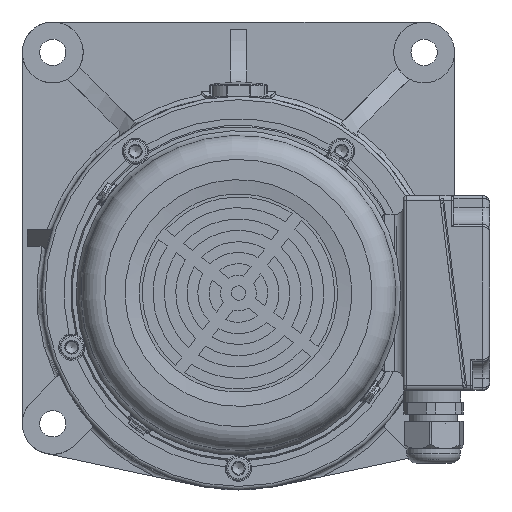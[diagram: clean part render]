
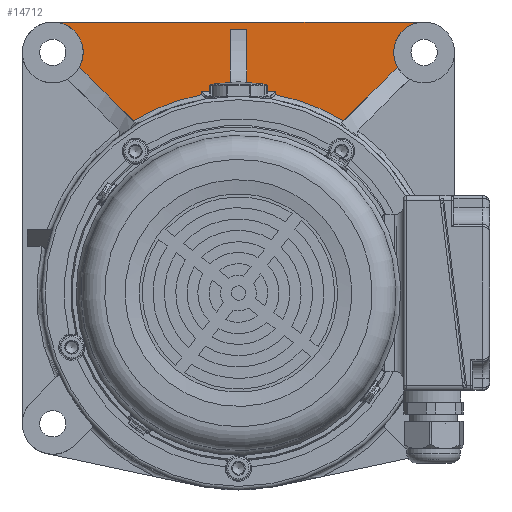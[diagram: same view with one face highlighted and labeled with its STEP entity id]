
A CAD part, left-side view. The second image highlights one B-rep face of the part: STEP entity #14712.
In plain terms, the highlighted planar face has unit normal (-1, 0, 0).
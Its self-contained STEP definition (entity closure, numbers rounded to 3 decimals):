
#2973=PLANE('',#58572);
#5677=LINE('',#85974,#10266);
#5787=LINE('',#87248,#10376);
#5788=LINE('',#87253,#10377);
#5789=LINE('',#87255,#10378);
#5790=LINE('',#87258,#10379);
#5791=LINE('',#87260,#10380);
#5792=LINE('',#87264,#10381);
#5793=LINE('',#87266,#10382);
#5794=LINE('',#87268,#10383);
#5795=LINE('',#87270,#10384);
#5796=LINE('',#87272,#10385);
#5797=LINE('',#87274,#10386);
#10266=VECTOR('',#66936,1.);
#10376=VECTOR('',#67654,1.);
#10377=VECTOR('',#67657,1.);
#10378=VECTOR('',#67658,1.);
#10379=VECTOR('',#67661,1.);
#10380=VECTOR('',#67662,1.);
#10381=VECTOR('',#67665,1.);
#10382=VECTOR('',#67666,1.);
#10383=VECTOR('',#67667,1.);
#10384=VECTOR('',#67668,1.);
#10385=VECTOR('',#67669,1.);
#10386=VECTOR('',#67670,1.);
#14712=ADVANCED_FACE('',(#18039),#2973,.F.);
#18039=FACE_OUTER_BOUND('',#21161,.T.);
#21161=EDGE_LOOP('',(#31565,#31566,#31567,#31568,#31569,#31570,#31571,#31572,
#31573,#31574,#31575,#31576,#31577,#31578,#31579,#31580));
#31565=ORIENTED_EDGE('',*,*,#49570,.T.);
#31566=ORIENTED_EDGE('',*,*,#49571,.T.);
#31567=ORIENTED_EDGE('',*,*,#49572,.T.);
#31568=ORIENTED_EDGE('',*,*,#49573,.T.);
#31569=ORIENTED_EDGE('',*,*,#49574,.T.);
#31570=ORIENTED_EDGE('',*,*,#49205,.T.);
#31571=ORIENTED_EDGE('',*,*,#49568,.T.);
#31572=ORIENTED_EDGE('',*,*,#49575,.T.);
#31573=ORIENTED_EDGE('',*,*,#49576,.T.);
#31574=ORIENTED_EDGE('',*,*,#49577,.T.);
#31575=ORIENTED_EDGE('',*,*,#49578,.T.);
#31576=ORIENTED_EDGE('',*,*,#49579,.T.);
#31577=ORIENTED_EDGE('',*,*,#49580,.T.);
#31578=ORIENTED_EDGE('',*,*,#49581,.T.);
#31579=ORIENTED_EDGE('',*,*,#49582,.T.);
#31580=ORIENTED_EDGE('',*,*,#49583,.T.);
#42873=VERTEX_POINT('',#85973);
#42874=VERTEX_POINT('',#85975);
#43128=VERTEX_POINT('',#87243);
#43130=VERTEX_POINT('',#87249);
#43131=VERTEX_POINT('',#87250);
#43132=VERTEX_POINT('',#87252);
#43133=VERTEX_POINT('',#87254);
#43134=VERTEX_POINT('',#87256);
#43135=VERTEX_POINT('',#87259);
#43136=VERTEX_POINT('',#87261);
#43137=VERTEX_POINT('',#87263);
#43138=VERTEX_POINT('',#87265);
#43139=VERTEX_POINT('',#87267);
#43140=VERTEX_POINT('',#87269);
#43141=VERTEX_POINT('',#87271);
#43142=VERTEX_POINT('',#87273);
#49205=EDGE_CURVE('',#42874,#42873,#5677,.T.);
#49568=EDGE_CURVE('',#42873,#43128,#55384,.T.);
#49570=EDGE_CURVE('',#43130,#43131,#5787,.T.);
#49571=EDGE_CURVE('',#43131,#43132,#55386,.T.);
#49572=EDGE_CURVE('',#43132,#43133,#5788,.T.);
#49573=EDGE_CURVE('',#43133,#43134,#5789,.T.);
#49574=EDGE_CURVE('',#43134,#42874,#55387,.T.);
#49575=EDGE_CURVE('',#43128,#43135,#5790,.T.);
#49576=EDGE_CURVE('',#43135,#43136,#5791,.T.);
#49577=EDGE_CURVE('',#43136,#43137,#55388,.T.);
#49578=EDGE_CURVE('',#43137,#43138,#5792,.T.);
#49579=EDGE_CURVE('',#43138,#43139,#5793,.T.);
#49580=EDGE_CURVE('',#43139,#43140,#5794,.T.);
#49581=EDGE_CURVE('',#43140,#43141,#5795,.T.);
#49582=EDGE_CURVE('',#43141,#43142,#5796,.T.);
#49583=EDGE_CURVE('',#43142,#43130,#5797,.T.);
#55384=CIRCLE('',#58566,12.75);
#55386=CIRCLE('',#58569,84.5);
#55387=CIRCLE('',#58570,12.75);
#55388=CIRCLE('',#58571,84.5);
#58566=AXIS2_PLACEMENT_3D('',#87244,#67648,#67649);
#58569=AXIS2_PLACEMENT_3D('',#87251,#67655,#67656);
#58570=AXIS2_PLACEMENT_3D('',#87257,#67659,#67660);
#58571=AXIS2_PLACEMENT_3D('',#87262,#67663,#67664);
#58572=AXIS2_PLACEMENT_3D('',#87275,#67671,#67672);
#66936=DIRECTION('',(0.,1.,0.));
#67648=DIRECTION('',(1.,0.,0.));
#67649=DIRECTION('',(0.,-1.,0.));
#67654=DIRECTION('',(0.,0.,-1.));
#67655=DIRECTION('',(1.,0.,0.));
#67656=DIRECTION('',(0.,0.,-1.));
#67657=DIRECTION('',(0.,-0.707,0.707));
#67658=DIRECTION('',(0.,-0.707,-0.707));
#67659=DIRECTION('',(1.,0.,0.));
#67660=DIRECTION('',(0.,0.,-1.));
#67661=DIRECTION('',(0.,-0.707,0.707));
#67662=DIRECTION('',(0.,-0.707,-0.707));
#67663=DIRECTION('',(1.,0.,0.));
#67664=DIRECTION('',(0.,0.,-1.));
#67665=DIRECTION('',(0.,0.,1.));
#67666=DIRECTION('',(0.,-1.,0.));
#67667=DIRECTION('',(0.,0.,1.));
#67668=DIRECTION('',(0.,-1.,0.));
#67669=DIRECTION('',(0.,0.,-1.));
#67670=DIRECTION('',(0.,-1.,0.));
#67671=DIRECTION('',(1.,0.,0.));
#67672=DIRECTION('',(0.,0.,-1.));
#85973=CARTESIAN_POINT('',(573.616,681.098,-649.077));
#85974=CARTESIAN_POINT('',(573.616,681.098,-649.077));
#85975=CARTESIAN_POINT('',(573.616,525.535,-649.077));
#87243=CARTESIAN_POINT('',(573.616,670.193,-668.433));
#87244=CARTESIAN_POINT('',(573.616,681.098,-661.827));
#87248=CARTESIAN_POINT('',(573.616,587.817,-681.221));
#87249=CARTESIAN_POINT('',(573.616,587.817,-678.109));
#87250=CARTESIAN_POINT('',(573.616,587.817,-679.542));
#87251=CARTESIAN_POINT('',(573.616,603.317,-762.609));
#87252=CARTESIAN_POINT('',(573.616,559.198,-690.541));
#87253=CARTESIAN_POINT('',(573.616,520.794,-652.137));
#87254=CARTESIAN_POINT('',(573.616,536.765,-668.108));
#87255=CARTESIAN_POINT('',(573.616,536.765,-668.108));
#87256=CARTESIAN_POINT('',(573.616,536.44,-668.433));
#87257=CARTESIAN_POINT('',(573.616,525.535,-661.827));
#87258=CARTESIAN_POINT('',(573.616,669.868,-668.108));
#87259=CARTESIAN_POINT('',(573.616,669.868,-668.108));
#87260=CARTESIAN_POINT('',(573.616,685.839,-652.137));
#87261=CARTESIAN_POINT('',(573.616,647.435,-690.541));
#87262=CARTESIAN_POINT('',(573.616,603.317,-762.609));
#87263=CARTESIAN_POINT('',(573.616,618.817,-679.542));
#87264=CARTESIAN_POINT('',(573.616,618.817,-680.109));
#87265=CARTESIAN_POINT('',(573.616,618.817,-678.109));
#87266=CARTESIAN_POINT('',(573.616,525.535,-678.109));
#87267=CARTESIAN_POINT('',(573.616,606.817,-678.109));
#87268=CARTESIAN_POINT('',(573.616,606.817,-650.521));
#87269=CARTESIAN_POINT('',(573.616,606.817,-652.109));
#87270=CARTESIAN_POINT('',(573.616,599.817,-652.109));
#87271=CARTESIAN_POINT('',(573.616,599.817,-652.109));
#87272=CARTESIAN_POINT('',(573.616,599.817,-650.521));
#87273=CARTESIAN_POINT('',(573.616,599.817,-678.109));
#87274=CARTESIAN_POINT('',(573.616,525.535,-678.109));
#87275=CARTESIAN_POINT('',(573.616,525.535,-817.39));
